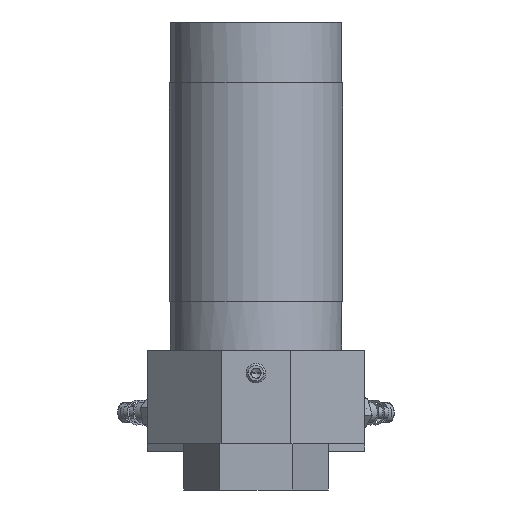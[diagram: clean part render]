
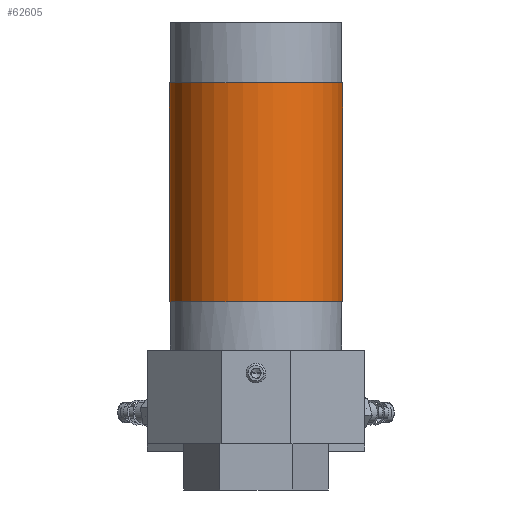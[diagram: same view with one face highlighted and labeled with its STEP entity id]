
A CAD part, left-side view. The second image highlights one B-rep face of the part: STEP entity #62605.
In plain terms, the highlighted cylindrical face has radius 17.59 mm (diameter 35.179 mm), a full revolution.
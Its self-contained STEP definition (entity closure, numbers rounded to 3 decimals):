
#7138=FACE_OUTER_BOUND('',#11073,.T.);
#11073=EDGE_LOOP('',(#54077,#54078,#54079,#54080));
#18206=CIRCLE('',#68155,17.59);
#18207=CIRCLE('',#68156,17.59);
#20108=LINE('',#250458,#21919);
#21919=VECTOR('',#81007,17.59);
#27214=VERTEX_POINT('',#250455);
#27215=VERTEX_POINT('',#250457);
#36200=EDGE_CURVE('',#27214,#27214,#18206,.T.);
#36201=EDGE_CURVE('',#27214,#27215,#20108,.T.);
#36202=EDGE_CURVE('',#27215,#27215,#18207,.T.);
#54077=ORIENTED_EDGE('',*,*,#36200,.T.);
#54078=ORIENTED_EDGE('',*,*,#36201,.T.);
#54079=ORIENTED_EDGE('',*,*,#36202,.F.);
#54080=ORIENTED_EDGE('',*,*,#36201,.F.);
#55064=CYLINDRICAL_SURFACE('',#68154,17.59);
#62605=ADVANCED_FACE('',(#7138),#55064,.T.);
#68154=AXIS2_PLACEMENT_3D('',#250454,#81003,#81004);
#68155=AXIS2_PLACEMENT_3D('',#250456,#81005,#81006);
#68156=AXIS2_PLACEMENT_3D('',#250459,#81008,#81009);
#81003=DIRECTION('center_axis',(0.,0.,
1.));
#81004=DIRECTION('ref_axis',(0.518,-0.855,0.));
#81005=DIRECTION('center_axis',(0.,0.,
-1.));
#81006=DIRECTION('ref_axis',(0.518,-0.855,0.));
#81007=DIRECTION('',(0.,0.,-1.));
#81008=DIRECTION('center_axis',(0.,0.,
-1.));
#81009=DIRECTION('ref_axis',(0.518,-0.855,0.));
#250454=CARTESIAN_POINT('Origin',(0.,0.,28.892));
#250455=CARTESIAN_POINT('',(-9.117,15.042,73.342));
#250456=CARTESIAN_POINT('Origin',(0.,0.,
73.342));
#250457=CARTESIAN_POINT('',(-9.117,15.042,28.892));
#250458=CARTESIAN_POINT('',(-9.117,15.042,28.892));
#250459=CARTESIAN_POINT('Origin',(0.,0.,28.892));
